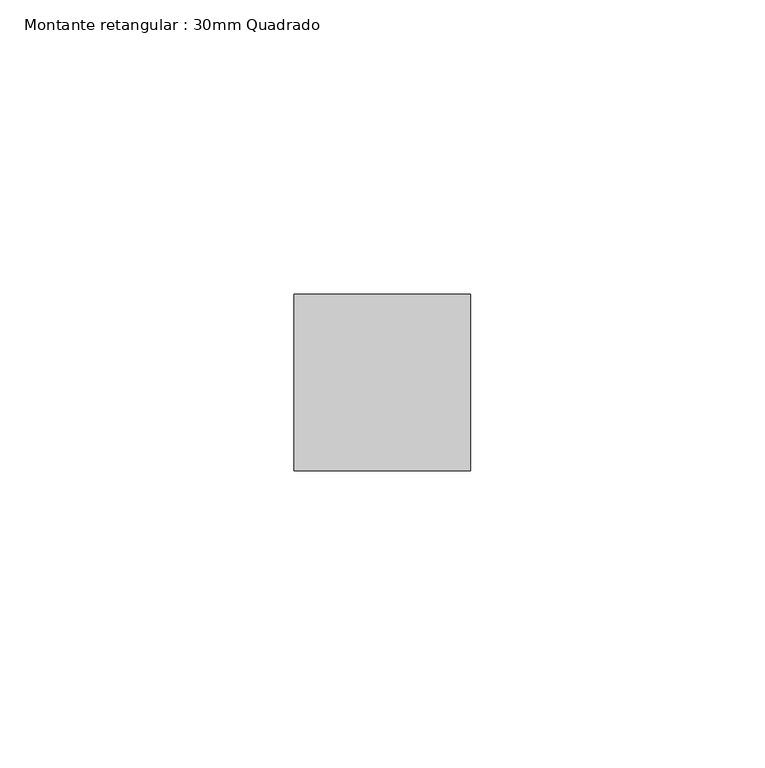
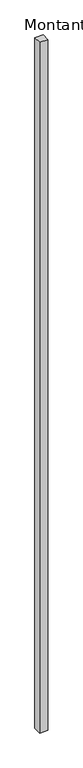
"""IFC4 building model written with IfcOpenShell, lengths in millimetres: member geometry, Montante retangular : 30mm Quadrado."""

from ifc_helpers import new_model, si_unit, frame, origin, place, context, project, spatial, polyline, outline, extrude, source, transform, mapped, element, save


def montante_retangular_30mm_quadrado_8cb72221(model_context):
    return source(origin(), model_context, "Body", "SweptSolid", [
        extrude(outline(polyline([(0.0, 15.0), (0.0, -15.0), (-30.0, -15.0), (-30.0, 15.0), (0.0, 15.0)])), frame((0.0, 0.0, -2640.0), z_axis=(0.0, 0.0, 1.0), x_axis=(1.0, 0.0, 0.0)), (0.0, 0.0, 1.0), 2640.0),
    ])


if __name__ == "__main__":
    model = new_model("IFC4")
    model_context = context("Model", 3, world=origin())
    ifc_project = project(units=[si_unit("LENGTHUNIT", "METRE", prefix="MILLI")], contexts=[model_context])
    site = spatial("IfcSite", under=ifc_project)
    building = spatial("IfcBuilding", under=site)
    placement = place(None, origin())
    montante_retangular_30mm_quadrado_shape = montante_retangular_30mm_quadrado_8cb72221(model_context)
    element("IfcMember", 1, ObjectType="Montante retangular : 30mm Quadrado", at=placement, inside=building, context=model_context, shape_type="MappedRepresentation", body=[
        mapped(montante_retangular_30mm_quadrado_shape, transform((0.0, 0.0, 0.0), x_axis=(1.0, 0.0, 0.0), y_axis=(0.0, 1.0, 0.0), z_axis=(0.0, 0.0, 1.0))),
    ])
    save(model, "model.ifc")
